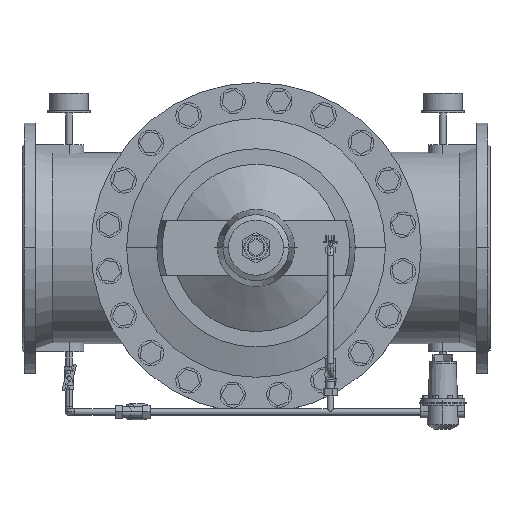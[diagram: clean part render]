
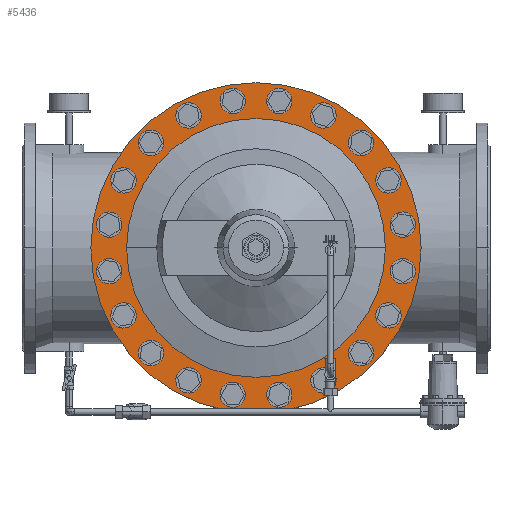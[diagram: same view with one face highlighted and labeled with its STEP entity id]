
A CAD part, top view. The second image highlights one B-rep face of the part: STEP entity #5436.
In plain terms, the highlighted planar face has unit normal (0, 0, 1).
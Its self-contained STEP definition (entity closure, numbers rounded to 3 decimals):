
#5436=ADVANCED_FACE('',(#10182),#10183,.F.);
#10182=FACE_OUTER_BOUND('',#15704,.T.);
#10183=PLANE('',#15705);
#15704=EDGE_LOOP('',(#24763,#24764));
#15705=AXIS2_PLACEMENT_3D('',#24765,#24766,#24767);
#24763=ORIENTED_EDGE('',*,*,#29729,.F.);
#24764=ORIENTED_EDGE('',*,*,#31600,.F.);
#24765=CARTESIAN_POINT('',(425.0,0.0,290.0));
#24766=DIRECTION('',(0.,0.0,-1.0));
#24767=DIRECTION('',(-1.0,0.0,0.));
#29729=EDGE_CURVE('',#34815,#34818,#34819,.T.);
#31600=EDGE_CURVE('',#34818,#34815,#37745,.T.);
#34815=VERTEX_POINT('',#41875);
#34818=VERTEX_POINT('',#41879);
#34819=CIRCLE('',#41880,300.0);
#37745=CIRCLE('',#46070,300.0);
#41875=CARTESIAN_POINT('',(125.0,0.0,290.0));
#41879=CARTESIAN_POINT('',(725.0,0.,290.0));
#41880=AXIS2_PLACEMENT_3D('',#50056,#50057,#50058);
#46070=AXIS2_PLACEMENT_3D('',#52366,#52367,#52368);
#50056=CARTESIAN_POINT('',(425.0,0.0,290.0));
#50057=DIRECTION('',(0.,0.0,-1.0));
#50058=DIRECTION('',(-1.0,0.0,0.));
#52366=CARTESIAN_POINT('',(425.0,0.0,290.0));
#52367=DIRECTION('',(0.,0.0,-1.0));
#52368=DIRECTION('',(-1.0,0.0,0.));
